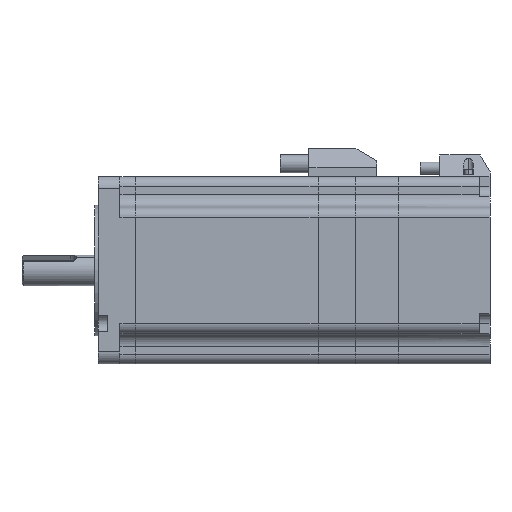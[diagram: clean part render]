
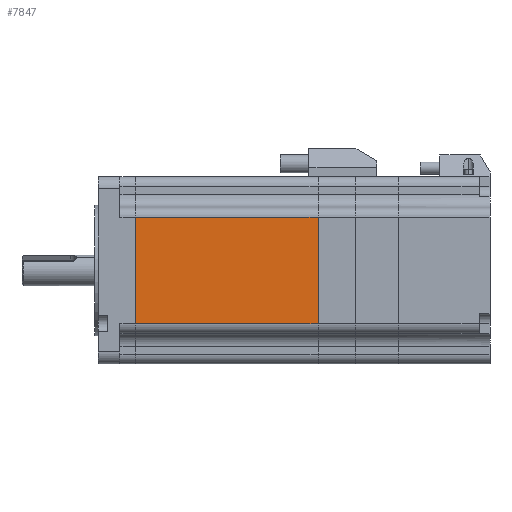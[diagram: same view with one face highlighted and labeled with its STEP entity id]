
A CAD part, left-side view. The second image highlights one B-rep face of the part: STEP entity #7847.
In plain terms, the highlighted planar face has unit normal (-1, 0, 0).
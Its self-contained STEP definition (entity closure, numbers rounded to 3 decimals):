
#289 = CARTESIAN_POINT ( 'NONE',  ( -43., 84., -24.5 ) ) ;
#892 = VECTOR ( 'NONE', #4278, 1000. ) ;
#992 = ORIENTED_EDGE ( 'NONE', *, *, #6045, .F. ) ;
#1313 = ORIENTED_EDGE ( 'NONE', *, *, #8017, .T. ) ;
#1690 = LINE ( 'NONE', #289, #5205 ) ;
#1735 = CARTESIAN_POINT ( 'NONE',  ( -43., 0., -24.5 ) ) ;
#2125 = ORIENTED_EDGE ( 'NONE', *, *, #6928, .T. ) ;
#2260 = CARTESIAN_POINT ( 'NONE',  ( -43., 84., 0. ) ) ;
#2464 = EDGE_CURVE ( 'NONE', #7466, #2948, #5097, .T. ) ;
#2948 = VERTEX_POINT ( 'NONE', #4708 ) ;
#3915 = VECTOR ( 'NONE', #5763, 1000. ) ;
#4121 = CARTESIAN_POINT ( 'NONE',  ( -43., 84., -24.5 ) ) ;
#4278 = DIRECTION ( 'NONE',  ( 0., 0., 1. ) ) ;
#4634 = FACE_OUTER_BOUND ( 'NONE', #8737, .T. ) ;
#4687 = LINE ( 'NONE', #7837, #9591 ) ;
#4708 = CARTESIAN_POINT ( 'NONE',  ( -43., 84., 24.5 ) ) ;
#5036 = LINE ( 'NONE', #8826, #3915 ) ;
#5097 = LINE ( 'NONE', #6678, #892 ) ;
#5205 = VECTOR ( 'NONE', #7996, 1000. ) ;
#5410 = DIRECTION ( 'NONE',  ( 1., 0., 0. ) ) ;
#5763 = DIRECTION ( 'NONE',  ( 0., 0., 1. ) ) ;
#5838 = VERTEX_POINT ( 'NONE', #9831 ) ;
#6045 = EDGE_CURVE ( 'NONE', #2948, #5838, #4687, .T. ) ;
#6210 = AXIS2_PLACEMENT_3D ( 'NONE', #2260, #5410, #8571 ) ;
#6678 = CARTESIAN_POINT ( 'NONE',  ( -43., 84., 0. ) ) ;
#6928 = EDGE_CURVE ( 'NONE', #6977, #5838, #5036, .T. ) ;
#6977 = VERTEX_POINT ( 'NONE', #1735 ) ;
#7466 = VERTEX_POINT ( 'NONE', #4121 ) ;
#7837 = CARTESIAN_POINT ( 'NONE',  ( -43., 84., 24.5 ) ) ;
#7847 = ADVANCED_FACE ( 'NONE', ( #4634 ), #10129, .F. ) ;
#7996 = DIRECTION ( 'NONE',  ( 0., -1., 0. ) ) ;
#8017 = EDGE_CURVE ( 'NONE', #7466, #6977, #1690, .T. ) ;
#8223 = ORIENTED_EDGE ( 'NONE', *, *, #2464, .F. ) ;
#8571 = DIRECTION ( 'NONE',  ( 0., 0., -1. ) ) ;
#8671 = DIRECTION ( 'NONE',  ( 0., -1., 0. ) ) ;
#8737 = EDGE_LOOP ( 'NONE', ( #2125, #992, #8223, #1313 ) ) ;
#8826 = CARTESIAN_POINT ( 'NONE',  ( -43., 0., 0. ) ) ;
#9591 = VECTOR ( 'NONE', #8671, 1000. ) ;
#9831 = CARTESIAN_POINT ( 'NONE',  ( -43., 0., 24.5 ) ) ;
#10129 = PLANE ( 'NONE',  #6210 ) ;
